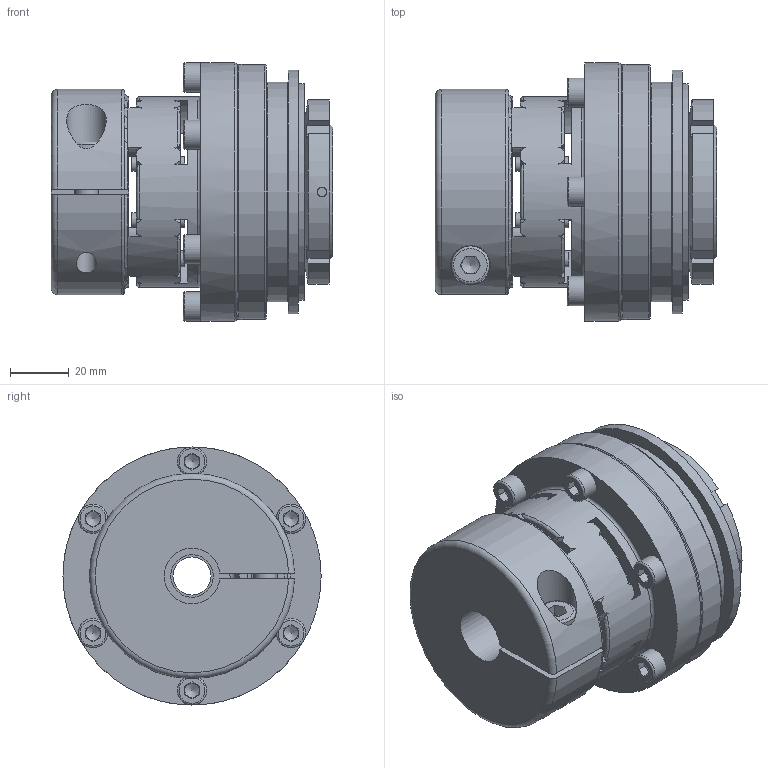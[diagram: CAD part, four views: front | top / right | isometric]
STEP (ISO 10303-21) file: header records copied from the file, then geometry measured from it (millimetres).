
FILE_DESCRIPTION( ( 'Unknown' ), '1' );
FILE_NAME( 'F:/JAKOB-STEP+IGES-Dateien/STEP-Dateien/SKW-EK/SKW-EK 100.stp', 'Unknown', ( 'Unknown' ), ( 'Unknown' ), 'PSStep 10.1', 'Unknown', ' ' );
FILE_SCHEMA( ( 'AUTOMOTIVE_DESIGN { 1 0 10303 214 1 1 1 1 }' ) );
Length unit declared in the file: millimetre
Products named in the file (1): SKW 100
Bounding box: 96 x 88 x 88 mm (x, y, z)
Volume: 347349.1 mm3; surface area: 84461.3 mm2
Topology: 1 solids, 11 shells, 475 faces, 1337 edges, 859 vertices
Faces by surface type: plane 199, cylinder 124, torus 74, cone 63, sphere 15
Full cylindrical faces by diameter (mm): 2 x2, 3.3 x3, 5 x14, 6 x6, 6.4 x6, 6.8 x1, 8 x1, 8.6 x1, 10 x6, 13 x2, 13.5 x1, 14.5 x1, 30 x2, 40.5 x1, 42.5 x1, 44.8 x1, 45 x2, 46 x2, 46.5 x1, 52.3 x2, 60.8 x2, 65 x1, 68 x3, 72.6 x2, 74 x1, 75 x1, 83 x1, 87 x1, 88 x1
Entity records: 19992 total; most frequent: CARTESIAN_POINT 4976, DIRECTION 2316, ORIENTED_EDGE 2230, EDGE_CURVE 1115, AXIS2_PLACEMENT_3D 989, VERTEX_POINT 771, EDGE_LOOP 667, FACE_OUTER_BOUND 554
